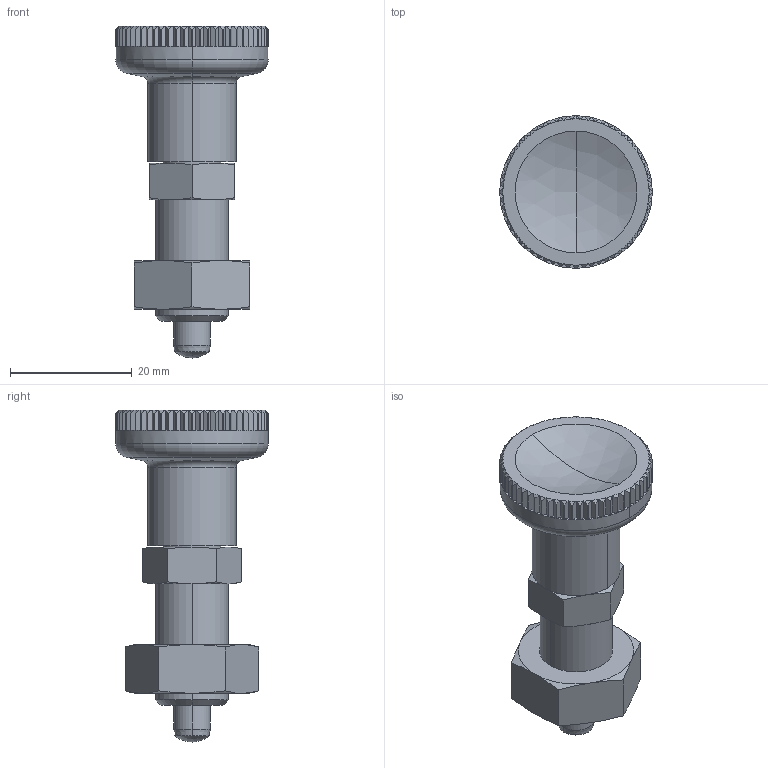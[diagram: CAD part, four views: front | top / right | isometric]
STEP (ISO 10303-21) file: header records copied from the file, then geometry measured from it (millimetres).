
FILE_DESCRIPTION (( 'STEP AP203' ), '1' );
FILE_NAME ('eip12w-sus.STEP', '2021-10-25T02:37:14', ( '' ), ( '' ), 'SwSTEP 2.0', 'SolidWorks 2020', '' );
FILE_SCHEMA (( 'CONFIG_CONTROL_DESIGN' ));
Length unit declared in the file: millimetre
Products named in the file (3): eip12w-sus_01; eip12w-sus_02; eip12w-sus
Assembly tree (2 placements, depth 2):
  eip12w-sus
    eip12w-sus_01
    eip12w-sus_02
Bounding box: 25 x 25 x 54.5 mm (x, y, z)
Volume: 10798.2 mm3; surface area: 4735.7 mm2
Topology: 2 solids, 2 shells, 310 faces, 868 edges, 567 vertices
Faces by surface type: plane 199, cone 91, cylinder 12, torus 4, sphere 4
Entity records: 10494 total; most frequent: CARTESIAN_POINT 2310, ORIENTED_EDGE 1736, DIRECTION 1579, EDGE_CURVE 868, VERTEX_POINT 567, AXIS2_PLACEMENT_3D 564, LINE 451, VECTOR 451
